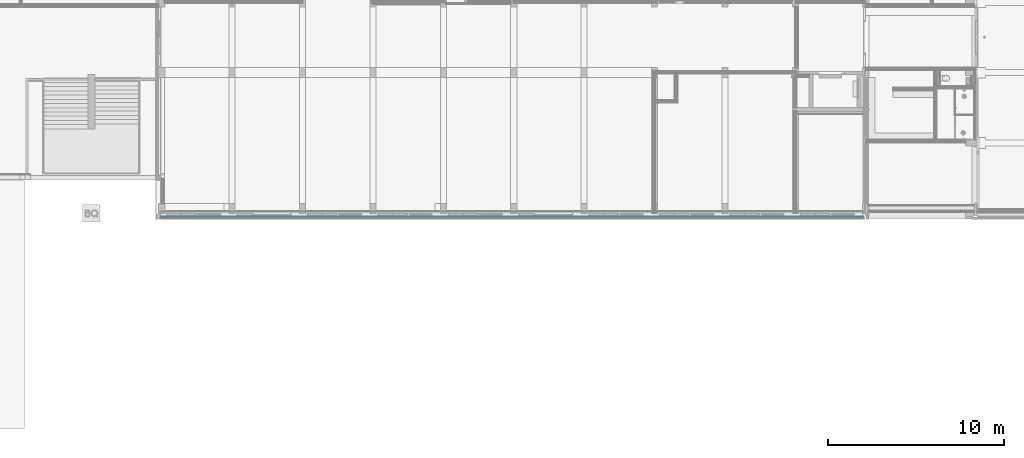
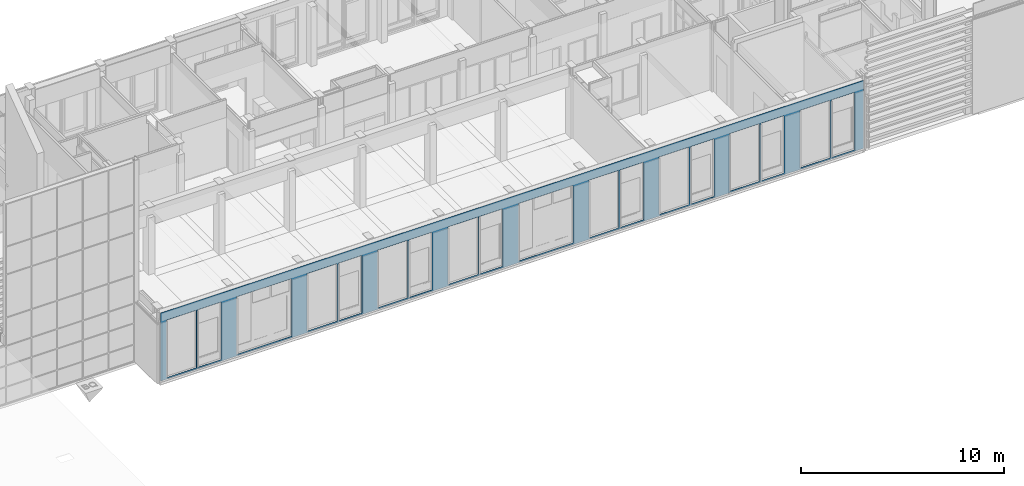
# One storey, part 54 of 109: 1 building element part, 18 openings, 1 element without a shape of its own.
"""IFC2X3 building model written with IfcOpenShell, lengths in millimetres."""

from ifc_helpers import new_model, entity, si_unit, converted_unit, derived_unit, money_unit, direction, frame, origin_with_axes, place, context, subcontext, project, spatial, faceted_brep, material, type_object, element, aggregate, save


model = new_model("IFC2X3")

# Units and contexts
model_context = context("Model", 3, precision=0.01, world=origin_with_axes(), true_north=direction((0.0, 1.0)))
body_context = subcontext(model_context, "Body", "Model", "MODEL_VIEW")
ifc_project = project(units=[si_unit("LENGTHUNIT", "METRE", prefix="MILLI"), si_unit("AREAUNIT", "SQUARE_METRE"), si_unit("VOLUMEUNIT", "CUBIC_METRE"), converted_unit("PLANEANGLEUNIT", "DEGREE", entity("IfcPlaneAngleMeasure", 0.0174532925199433), si_unit("PLANEANGLEUNIT", "RADIAN"), dimensions=[0, 0, 0, 0, 0, 0, 0]), money_unit("EUR"), converted_unit("TIMEUNIT", "Year", entity("IfcTimeMeasure", 31557600.0), si_unit("TIMEUNIT", "SECOND"), dimensions=[0, 0, 1, 0, 0, 0, 0]), si_unit("MASSUNIT", "GRAM", prefix="KILO"), si_unit("THERMODYNAMICTEMPERATUREUNIT", "DEGREE_CELSIUS"), si_unit("LUMINOUSINTENSITYUNIT", "LUMEN"), si_unit("ENERGYUNIT", "JOULE", prefix="MEGA"), derived_unit("THERMALCONDUCTANCEUNIT", [(si_unit("POWERUNIT", "WATT"), 1), (si_unit("LENGTHUNIT", "METRE"), -1), (si_unit("THERMODYNAMICTEMPERATUREUNIT", "KELVIN"), -1)]), derived_unit("SPECIFICHEATCAPACITYUNIT", [(si_unit("ENERGYUNIT", "JOULE"), 1), (si_unit("MASSUNIT", "GRAM", prefix="KILO"), -1), (si_unit("THERMODYNAMICTEMPERATUREUNIT", "KELVIN"), -1)]), derived_unit("MASSDENSITYUNIT", [(si_unit("MASSUNIT", "GRAM", prefix="KILO"), 1), (si_unit("VOLUMEUNIT", "CUBIC_METRE"), -1)])], contexts=[model_context])

# Site, building, storey
site_placement = place(None, origin_with_axes())
site = spatial("IfcSite", under=ifc_project, at=site_placement, Name="<site naam>", CompositionType="ELEMENT")
building_placement = place(site_placement, origin_with_axes())
building = spatial("IfcBuilding", under=site, at=building_placement, Name="<Naam gebouw>", CompositionType="ELEMENT")
storey_placement = place(building_placement, origin_with_axes())
storey = spatial("IfcBuildingStorey", under=building, at=storey_placement, Name="00 Begane grond", CompositionType="ELEMENT", Elevation=0.0)

# Wall, openings, building element part
wall_type = type_object("IfcWallType", Name="HSB_285 gevelbeplating 420", PredefinedType="NOTDEFINED")
wall_placement = place(storey_placement, frame((51865.00000000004, -297.9999999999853, 0.0), z_axis=(0.0, 0.0, 1.0), x_axis=(-1.0, 0.0, 0.0)))
wall = element("IfcWall", 1, at=wall_placement, inside=storey, type_object=wall_type, Name="21_Binnenwand_HSB_285")
opening_1_placement = place(wall_placement, frame((37163.99999999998, 0.0, 100.0), z_axis=(0.0, 0.0, 1.0), x_axis=(1.0, 0.0, 0.0)))
element("IfcOpeningElement", 2, at=opening_1_placement, cuts=wall, Name="21_BU-A-01b_305", context=body_context, shape_type="Brep", body=[
    faceted_brep([(-663.0000000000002, -212.9999999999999, 0.0), (-663.0000000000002, -212.9999999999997, 3450.0), (-663.0000000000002, 1.000000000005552, 3450.0), (-663.0000000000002, 1.00000000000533, 0.0), (-663.0000000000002, -421.0000000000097, 0.0), (-663.0000000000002, -421.0000000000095, 3450.0), (663.0000000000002, -212.9999999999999, 3450.0), (663.0000000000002, 1.000000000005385, 3450.0), (663.0000000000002, 1.000000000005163, 0.0), (663.0000000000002, -213.0000000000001, 0.0), (663.0000000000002, -421.0000000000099, 0.0), (663.0000000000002, -421.0000000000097, 3450.0)], [[[0, 1, 2, 3]], [[1, 0, 4, 5]], [[1, 6, 7, 2]], [[7, 8, 3, 2]], [[9, 0, 3, 8]], [[0, 9, 10, 4]], [[5, 4, 10, 11]], [[6, 1, 5, 11]], [[6, 9, 8, 7]], [[9, 6, 11, 10]]]),
])
opening_2_placement = place(wall_placement, frame((38753.9999887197, 0.0, 100.0), z_axis=(0.0, 0.0, 1.0), x_axis=(1.0, 0.0, 0.0)))
element("IfcOpeningElement", 3, at=opening_2_placement, cuts=wall, Name="21_BU-A-01a_305", context=body_context, shape_type="Brep", body=[
    faceted_brep([(-850.9999999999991, -212.9999999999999, 0.0), (-850.9999999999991, -212.9999999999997, 3450.0), (-850.9999999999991, 1.000000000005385, 3450.0), (-850.9999999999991, 1.000000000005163, 0.0), (-850.9999999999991, -421.0000000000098, 0.0), (-850.9999999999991, -421.0000000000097, 3450.0), (850.9999999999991, -212.9999999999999, 3450.0), (851.0000000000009, 1.000000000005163, 3450.0), (851.0000000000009, 1.000000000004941, 0.0), (850.9999999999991, -213.0000000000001, 0.0), (850.9999999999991, -421.00000000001, 0.0), (850.9999999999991, -421.0000000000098, 3450.0)], [[[0, 1, 2, 3]], [[1, 0, 4, 5]], [[1, 6, 7, 2]], [[7, 8, 3, 2]], [[9, 0, 3, 8]], [[0, 9, 10, 4]], [[5, 4, 10, 11]], [[6, 1, 5, 11]], [[6, 9, 8, 7]], [[9, 6, 11, 10]]]),
])
opening_3_placement = place(wall_placement, frame((29164.04998845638, 0.0, 100.0), z_axis=(0.0, 0.0, 1.0), x_axis=(1.0, 0.0, 0.0)))
element("IfcOpeningElement", 4, at=opening_3_placement, cuts=wall, Name="21_BU-A-01b_305", context=body_context, shape_type="Brep", body=[
    faceted_brep([(-663.0000000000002, -212.9999999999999, 0.0), (-663.0000000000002, -212.9999999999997, 3450.0), (-663.0000000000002, 1.000000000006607, 3450.0), (-663.0000000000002, 1.000000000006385, 0.0), (-663.0000000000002, -421.0000000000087, 0.0), (-663.0000000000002, -421.0000000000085, 3450.0), (663.0000000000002, -212.9999999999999, 3450.0), (663.0000000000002, 1.000000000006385, 3450.0), (663.0000000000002, 1.000000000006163, 0.0), (663.0000000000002, -213.0000000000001, 0.0), (663.0000000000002, -421.0000000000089, 0.0), (663.0000000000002, -421.0000000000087, 3450.0)], [[[0, 1, 2, 3]], [[1, 0, 4, 5]], [[1, 6, 7, 2]], [[7, 8, 3, 2]], [[9, 0, 3, 8]], [[0, 9, 10, 4]], [[5, 4, 10, 11]], [[6, 1, 5, 11]], [[6, 9, 8, 7]], [[9, 6, 11, 10]]]),
])
opening_4_placement = place(wall_placement, frame((26754.00000000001, 0.0, 100.0), z_axis=(0.0, 0.0, 1.0), x_axis=(1.0, 0.0, 0.0)))
element("IfcOpeningElement", 5, at=opening_4_placement, cuts=wall, Name="21_BU-A-01a_305", context=body_context, shape_type="Brep", body=[
    faceted_brep([(-850.9999999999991, -212.9999999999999, 0.0), (-850.9999999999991, -212.9999999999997, 3450.0), (-850.9999999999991, 1.000000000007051, 3450.0), (-850.9999999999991, 1.000000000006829, 0.0), (-850.9999999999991, -421.0000000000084, 0.0), (-850.9999999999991, -421.0000000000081, 3450.0), (850.9999999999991, -212.9999999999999, 3450.0), (850.9999999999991, 1.000000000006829, 3450.0), (850.9999999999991, 1.000000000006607, 0.0), (850.9999999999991, -213.0000000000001, 0.0), (850.9999999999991, -421.0000000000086, 0.0), (850.9999999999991, -421.0000000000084, 3450.0)], [[[0, 1, 2, 3]], [[1, 0, 4, 5]], [[1, 6, 7, 2]], [[7, 8, 3, 2]], [[9, 0, 3, 8]], [[0, 9, 10, 4]], [[5, 4, 10, 11]], [[6, 1, 5, 11]], [[6, 9, 8, 7]], [[9, 6, 11, 10]]]),
])
opening_5_placement = place(wall_placement, frame((25163.98053643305, 0.0, 100.0), z_axis=(0.0, 0.0, 1.0), x_axis=(1.0, 0.0, 0.0)))
element("IfcOpeningElement", 6, at=opening_5_placement, cuts=wall, Name="21_BU-A-01b_305", context=body_context, shape_type="Brep", body=[
    faceted_brep([(-663.0000000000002, -212.9999999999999, 0.0), (-663.0000000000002, -212.9999999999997, 3450.0), (-663.0000000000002, 1.000000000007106, 3450.0), (-663.0000000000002, 1.000000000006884, 0.0), (-663.0000000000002, -421.0000000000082, 0.0), (-663.0000000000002, -421.000000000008, 3450.0), (663.0000000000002, -212.9999999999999, 3450.0), (663.0000000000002, 1.00000000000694, 3450.0), (663.0000000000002, 1.000000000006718, 0.0), (663.0000000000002, -213.0000000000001, 0.0), (663.0000000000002, -421.0000000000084, 0.0), (663.0000000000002, -421.0000000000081, 3450.0)], [[[0, 1, 2, 3]], [[1, 0, 4, 5]], [[1, 6, 7, 2]], [[7, 8, 3, 2]], [[9, 0, 3, 8]], [[0, 9, 10, 4]], [[5, 4, 10, 11]], [[6, 1, 5, 11]], [[6, 9, 8, 7]], [[9, 6, 11, 10]]]),
])
opening_6_placement = place(wall_placement, frame((13164.00001128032, 0.0, 100.0), z_axis=(0.0, 0.0, 1.0), x_axis=(1.0, 0.0, 0.0)))
element("IfcOpeningElement", 7, at=opening_6_placement, cuts=wall, Name="21_BU-A-01b_305", context=body_context, shape_type="Brep", body=[
    faceted_brep([(-662.9999999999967, -212.9999999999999, 0.0), (-662.9999999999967, -212.9999999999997, 3450.0), (-662.9999999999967, 1.000000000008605, 3450.0), (-662.9999999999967, 1.000000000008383, 0.0), (-662.9999999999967, -421.0000000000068, 0.0), (-662.9999999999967, -421.0000000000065, 3450.0), (662.9999999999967, -212.9999999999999, 3450.0), (662.9999999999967, 1.000000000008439, 3450.0), (662.9999999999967, 1.000000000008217, 0.0), (662.9999999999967, -213.0000000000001, 0.0), (662.9999999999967, -421.0000000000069, 0.0), (662.9999999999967, -421.0000000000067, 3450.0)], [[[0, 1, 2, 3]], [[1, 0, 4, 5]], [[1, 6, 7, 2]], [[7, 8, 3, 2]], [[9, 0, 3, 8]], [[0, 9, 10, 4]], [[5, 4, 10, 11]], [[6, 1, 5, 11]], [[6, 9, 8, 7]], [[9, 6, 11, 10]]]),
])
opening_7_placement = place(wall_placement, frame((21164.00000000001, 0.0, 100.0), z_axis=(0.0, 0.0, 1.0), x_axis=(1.0, 0.0, 0.0)))
element("IfcOpeningElement", 8, at=opening_7_placement, cuts=wall, Name="21_BU-A-01b_305", context=body_context, shape_type="Brep", body=[
    faceted_brep([(-663.0000000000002, -212.9999999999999, 0.0), (-663.0000000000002, -212.9999999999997, 3450.0), (-663.0000000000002, 1.000000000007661, 3450.0), (-663.0000000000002, 1.000000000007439, 0.0), (-663.0000000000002, -421.0000000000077, 0.0), (-663.0000000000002, -421.0000000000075, 3450.0), (663.0000000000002, -212.9999999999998, 3450.0), (663.0000000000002, 1.000000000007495, 3450.0), (663.0000000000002, 1.000000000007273, 0.0), (663.0000000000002, -213.0000000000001, 0.0), (663.0000000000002, -421.0000000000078, 0.0), (663.0000000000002, -421.0000000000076, 3450.0)], [[[0, 1, 2, 3]], [[1, 0, 4, 5]], [[1, 6, 7, 2]], [[7, 8, 3, 2]], [[9, 0, 3, 8]], [[0, 9, 10, 4]], [[5, 4, 10, 11]], [[6, 1, 5, 11]], [[6, 9, 8, 7]], [[9, 6, 11, 10]]]),
])
opening_8_placement = place(wall_placement, frame((22753.98053643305, 0.0, 100.0), z_axis=(0.0, 0.0, 1.0), x_axis=(1.0, 0.0, 0.0)))
element("IfcOpeningElement", 9, at=opening_8_placement, cuts=wall, Name="21_BU-A-01a_305", context=body_context, shape_type="Brep", body=[
    faceted_brep([(-850.9999999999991, -212.9999999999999, 0.0), (-850.9999999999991, -212.9999999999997, 3450.0), (-850.9999999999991, 1.000000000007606, 3450.0), (-850.9999999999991, 1.000000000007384, 0.0), (-850.9999999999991, -421.0000000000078, 0.0), (-850.9999999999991, -421.0000000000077, 3450.0), (850.9999999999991, -212.9999999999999, 3450.0), (850.9999999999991, 1.000000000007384, 3450.0), (850.9999999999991, 1.000000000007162, 0.0), (850.9999999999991, -213.0000000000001, 0.0), (850.9999999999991, -421.0000000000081, 0.0), (850.9999999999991, -421.0000000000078, 3450.0)], [[[0, 1, 2, 3]], [[1, 0, 4, 5]], [[1, 6, 7, 2]], [[7, 8, 3, 2]], [[9, 0, 3, 8]], [[0, 9, 10, 4]], [[5, 4, 10, 11]], [[6, 1, 5, 11]], [[6, 9, 8, 7]], [[9, 6, 11, 10]]]),
])
opening_9_placement = place(wall_placement, frame((14754.00000000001, 0.0, 100.0), z_axis=(0.0, 0.0, 1.0), x_axis=(1.0, 0.0, 0.0)))
element("IfcOpeningElement", 10, at=opening_9_placement, cuts=wall, Name="21_BU-A-01a_305", context=body_context, shape_type="Brep", body=[
    faceted_brep([(-850.9999999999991, -212.9999999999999, 0.0), (-850.9999999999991, -212.9999999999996, 3450.0), (-850.9999999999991, 1.000000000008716, 3450.0), (-850.9999999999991, 1.000000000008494, 0.0), (-850.9999999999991, -421.0000000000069, 0.0), (-850.9999999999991, -421.0000000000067, 3450.0), (850.9999999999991, -212.9999999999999, 3450.0), (850.9999999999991, 1.000000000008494, 3450.0), (850.9999999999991, 1.000000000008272, 0.0), (850.9999999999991, -213.0000000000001, 0.0), (850.9999999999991, -421.000000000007, 0.0), (850.9999999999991, -421.0000000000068, 3450.0)], [[[0, 1, 2, 3]], [[1, 0, 4, 5]], [[1, 6, 7, 2]], [[7, 8, 3, 2]], [[9, 0, 3, 8]], [[0, 9, 10, 4]], [[5, 4, 10, 11]], [[6, 1, 5, 11]], [[6, 9, 8, 7]], [[9, 6, 11, 10]]]),
])
opening_10_placement = place(wall_placement, frame((10754.00000000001, 0.0, 100.0), z_axis=(0.0, 0.0, 1.0), x_axis=(1.0, 0.0, 0.0)))
element("IfcOpeningElement", 11, at=opening_10_placement, cuts=wall, Name="21_BU-A-01a_305", context=body_context, shape_type="Brep", body=[
    faceted_brep([(-850.9999999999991, -212.9999999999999, 0.0), (-850.9999999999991, -212.9999999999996, 3450.0), (-850.9999999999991, 1.000000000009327, 3450.0), (-850.9999999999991, 1.000000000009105, 0.0), (-850.9999999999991, -421.0000000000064, 0.0), (-850.9999999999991, -421.0000000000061, 3450.0), (850.9999999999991, -212.9999999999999, 3450.0), (850.9999999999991, 1.000000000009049, 3450.0), (850.9999999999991, 1.000000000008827, 0.0), (850.9999999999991, -213.0000000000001, 0.0), (850.9999999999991, -421.0000000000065, 0.0), (850.9999999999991, -421.0000000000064, 3450.0)], [[[0, 1, 2, 3]], [[1, 0, 4, 5]], [[1, 6, 7, 2]], [[7, 8, 3, 2]], [[9, 0, 3, 8]], [[0, 9, 10, 4]], [[5, 4, 10, 11]], [[6, 1, 5, 11]], [[6, 9, 8, 7]], [[9, 6, 11, 10]]]),
])
opening_11_placement = place(wall_placement, frame((5164.000011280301, 0.0, 100.0), z_axis=(0.0, 0.0, 1.0), x_axis=(1.0, 0.0, 0.0)))
element("IfcOpeningElement", 12, at=opening_11_placement, cuts=wall, Name="21_BU-A-01b_305", context=body_context, shape_type="Brep", body=[
    faceted_brep([(-662.9999999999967, -212.9999999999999, 0.0), (-662.9999999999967, -212.9999999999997, 3450.0), (-662.9999999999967, 1.00000000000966, 3450.0), (-662.9999999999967, 1.000000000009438, 0.0), (-662.9999999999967, -421.0000000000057, 0.0), (-662.9999999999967, -421.0000000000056, 3450.0), (662.9999999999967, -212.9999999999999, 3450.0), (662.9999999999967, 1.000000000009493, 3450.0), (662.9999999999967, 1.000000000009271, 0.0), (662.9999999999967, -213.0000000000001, 0.0), (662.9999999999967, -421.0000000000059, 0.0), (662.9999999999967, -421.0000000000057, 3450.0)], [[[0, 1, 2, 3]], [[1, 0, 4, 5]], [[1, 6, 7, 2]], [[7, 8, 3, 2]], [[9, 0, 3, 8]], [[0, 9, 10, 4]], [[5, 4, 10, 11]], [[6, 1, 5, 11]], [[6, 9, 8, 7]], [[9, 6, 11, 10]]]),
])
opening_12_placement = place(wall_placement, frame((6754.000000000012, 0.0, 100.0), z_axis=(0.0, 0.0, 1.0), x_axis=(1.0, 0.0, 0.0)))
element("IfcOpeningElement", 13, at=opening_12_placement, cuts=wall, Name="21_BU-A-01a_305", context=body_context, shape_type="Brep", body=[
    faceted_brep([(-850.9999999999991, -212.9999999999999, 0.0), (-850.9999999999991, -212.9999999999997, 3450.0), (-850.9999999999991, 1.000000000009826, 3450.0), (-850.9999999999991, 1.000000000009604, 0.0), (-850.9999999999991, -421.0000000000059, 0.0), (-850.9999999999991, -421.0000000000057, 3450.0), (850.9999999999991, -212.9999999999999, 3450.0), (850.9999999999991, 1.000000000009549, 3450.0), (850.9999999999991, 1.000000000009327, 0.0), (850.9999999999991, -213.0000000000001, 0.0), (850.9999999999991, -421.0000000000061, 0.0), (850.9999999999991, -421.0000000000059, 3450.0)], [[[0, 1, 2, 3]], [[1, 0, 4, 5]], [[1, 6, 7, 2]], [[7, 8, 3, 2]], [[9, 0, 3, 8]], [[0, 9, 10, 4]], [[5, 4, 10, 11]], [[6, 1, 5, 11]], [[6, 9, 8, 7]], [[9, 6, 11, 10]]]),
])
opening_13_placement = place(wall_placement, frame((1164.000011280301, 0.0, 100.0), z_axis=(0.0, 0.0, 1.0), x_axis=(1.0, 0.0, 0.0)))
element("IfcOpeningElement", 14, at=opening_13_placement, cuts=wall, Name="21_BU-A-01b_305", context=body_context, shape_type="Brep", body=[
    faceted_brep([(-662.9999999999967, -212.9999999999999, 0.0), (-662.9999999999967, -212.9999999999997, 3450.0), (-662.9999999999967, 1.000000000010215, 3450.0), (-662.9999999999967, 1.000000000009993, 0.0), (-662.9999999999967, -421.0000000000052, 0.0), (-662.9999999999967, -421.000000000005, 3450.0), (662.9999999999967, -212.9999999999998, 3450.0), (662.9999999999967, 1.000000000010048, 3450.0), (662.9999999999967, 1.000000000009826, 0.0), (662.9999999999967, -213.0, 0.0), (662.9999999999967, -421.0000000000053, 0.0), (662.9999999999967, -421.0000000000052, 3450.0)], [[[0, 1, 2, 3]], [[1, 0, 4, 5]], [[1, 6, 7, 2]], [[7, 8, 3, 2]], [[9, 0, 3, 8]], [[0, 9, 10, 4]], [[5, 4, 10, 11]], [[6, 1, 5, 11]], [[6, 9, 8, 7]], [[9, 6, 11, 10]]]),
])
opening_14_placement = place(wall_placement, frame((2754.000000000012, 0.0, 100.0), z_axis=(0.0, 0.0, 1.0), x_axis=(1.0, 0.0, 0.0)))
element("IfcOpeningElement", 15, at=opening_14_placement, cuts=wall, Name="21_BU-A-01a_305", context=body_context, shape_type="Brep", body=[
    faceted_brep([(-850.9999999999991, -212.9999999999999, 0.0), (-850.9999999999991, -212.9999999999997, 3450.0), (-850.9999999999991, 1.000000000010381, 3450.0), (-850.9999999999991, 1.000000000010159, 0.0), (-850.9999999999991, -421.0000000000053, 0.0), (-850.9999999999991, -421.0000000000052, 3450.0), (850.9999999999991, -212.9999999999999, 3450.0), (850.9999999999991, 1.000000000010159, 3450.0), (850.9999999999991, 1.000000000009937, 0.0), (850.9999999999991, -213.0000000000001, 0.0), (850.9999999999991, -421.0000000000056, 0.0), (850.9999999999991, -421.0000000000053, 3450.0)], [[[0, 1, 2, 3]], [[1, 0, 4, 5]], [[1, 6, 7, 2]], [[7, 8, 3, 2]], [[9, 0, 3, 8]], [[0, 9, 10, 4]], [[5, 4, 10, 11]], [[6, 1, 5, 11]], [[6, 9, 8, 7]], [[9, 6, 11, 10]]]),
])
opening_15_placement = place(wall_placement, frame((9164.000011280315, 0.0, 100.0), z_axis=(0.0, 0.0, 1.0), x_axis=(1.0, 0.0, 0.0)))
element("IfcOpeningElement", 16, at=opening_15_placement, cuts=wall, Name="21_BU-A-01b_305", context=body_context, shape_type="Brep", body=[
    faceted_brep([(-662.9999999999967, -212.9999999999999, 0.0), (-662.9999999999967, -212.9999999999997, 3450.0), (-662.9999999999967, 1.000000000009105, 3450.0), (-662.9999999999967, 1.000000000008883, 0.0), (-662.9999999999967, -421.0000000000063, 0.0), (-662.9999999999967, -421.000000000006, 3450.0), (662.9999999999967, -212.9999999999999, 3450.0), (662.9999999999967, 1.000000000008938, 3450.0), (662.9999999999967, 1.000000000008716, 0.0), (662.9999999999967, -213.0000000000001, 0.0), (662.9999999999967, -421.0000000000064, 0.0), (662.9999999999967, -421.0000000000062, 3450.0)], [[[0, 1, 2, 3]], [[1, 0, 4, 5]], [[1, 6, 7, 2]], [[7, 8, 3, 2]], [[9, 0, 3, 8]], [[0, 9, 10, 4]], [[5, 4, 10, 11]], [[6, 1, 5, 11]], [[6, 9, 8, 7]], [[9, 6, 11, 10]]]),
])
opening_16_placement = place(wall_placement, frame((34053.00007085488, 0.0, 103.0000398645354), z_axis=(0.0, 0.0, 1.0), x_axis=(1.0, 0.0, 0.0)))
element("IfcOpeningElement", 17, at=opening_16_placement, cuts=wall, Name="21_BU-C-01_305", context=body_context, shape_type="Brep", body=[
    faceted_brep([(-1551.999929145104, -205.0, 0.0), (-1551.999929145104, -204.9999999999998, 3451.998648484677), (-1551.999929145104, 1.000000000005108, 3451.998648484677), (-1551.999929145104, 1.000000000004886, 0.0), (-1551.999929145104, -421.0000000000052, 0.0), (-1551.999929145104, -421.000000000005, 3451.998648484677), (1551.999929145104, -204.9999999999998, 3451.998648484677), (1551.999929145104, 1.000000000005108, 3451.998648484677), (1551.999929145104, 1.000000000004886, 0.0), (1551.999929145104, -205.0, 0.0), (1551.999929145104, -421.0000000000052, 0.0), (1551.999929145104, -421.0000000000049, 3451.998648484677)], [[[0, 1, 2, 3]], [[1, 0, 4, 5]], [[1, 6, 7, 2]], [[7, 8, 3, 2]], [[9, 0, 3, 8]], [[0, 9, 10, 4]], [[5, 4, 10, 11]], [[6, 1, 5, 11]], [[6, 9, 8, 7]], [[9, 6, 11, 10]]]),
])
opening_17_placement = place(wall_placement, frame((18053.00484185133, 0.0, 103.0000398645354), z_axis=(0.0, 0.0, 1.0), x_axis=(1.0, 0.0, 0.0)))
element("IfcOpeningElement", 18, at=opening_17_placement, cuts=wall, Name="21_BU-C-01_305", context=body_context, shape_type="Brep", body=[
    faceted_brep([(-1551.999929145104, -205.0, 0.0), (-1551.999929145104, -204.9999999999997, 3451.998648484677), (-1551.999929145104, 1.000000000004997, 3451.998648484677), (-1551.999929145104, 1.00000000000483, 0.0), (-1551.999929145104, -421.0000000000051, 0.0), (-1551.999929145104, -421.0000000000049, 3451.998648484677), (1551.999929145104, -204.9999999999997, 3451.998648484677), (1551.999929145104, 1.000000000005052, 3451.998648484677), (1551.999929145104, 1.00000000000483, 0.0), (1551.999929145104, -205.0, 0.0), (1551.999929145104, -421.0000000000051, 0.0), (1551.999929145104, -421.0000000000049, 3451.998648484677)], [[[0, 1, 2, 3]], [[1, 0, 4, 5]], [[1, 6, 7, 2]], [[7, 8, 3, 2]], [[9, 0, 3, 8]], [[0, 9, 10, 4]], [[5, 4, 10, 11]], [[6, 1, 5, 11]], [[6, 9, 8, 7]], [[9, 6, 11, 10]]]),
])
opening_18_placement = place(wall_placement, frame((30754.04506446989, 0.0, 100.0), z_axis=(0.0, 0.0, 1.0), x_axis=(1.0, 0.0, 0.0)))
element("IfcOpeningElement", 19, at=opening_18_placement, cuts=wall, Name="21_BU-A-01a_305", context=body_context, shape_type="Brep", body=[
    faceted_brep([(-850.9999999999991, -212.9999999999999, 0.0), (-850.9999999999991, -212.9999999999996, 3450.0), (-850.9999999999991, 1.000000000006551, 3450.0), (-850.9999999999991, 1.000000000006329, 0.0), (-850.9999999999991, -421.0000000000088, 0.0), (-850.9999999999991, -421.0000000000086, 3450.0), (850.9999999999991, -212.9999999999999, 3450.0), (850.9999999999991, 1.000000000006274, 3450.0), (850.9999999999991, 1.000000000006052, 0.0), (850.9999999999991, -213.0000000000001, 0.0), (850.9999999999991, -421.000000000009, 0.0), (850.9999999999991, -421.0000000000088, 3450.0)], [[[0, 1, 2, 3]], [[1, 0, 4, 5]], [[1, 6, 7, 2]], [[7, 8, 3, 2]], [[9, 0, 3, 8]], [[0, 9, 10, 4]], [[5, 4, 10, 11]], [[6, 1, 5, 11]], [[6, 9, 8, 7]], [[9, 6, 11, 10]]]),
])
ifc_material = material(Name="brandwerende_bekleding")
building_element_part_placement = place(wall_placement, origin_with_axes())
building_element_part = element("IfcBuildingElementPart", 20, at=building_element_part_placement, material=ifc_material, Name="brandwerende_bekleding", context=body_context, shape_type="Brep", body=[
    faceted_brep([(589.0010753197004, -106.9999999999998, 3555.0), (590.001075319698, -106.9999999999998, 3555.0), (590.001075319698, -107.0, 0.0), (3710.000004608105, -106.9999999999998, 0.0), (3710.000004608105, -106.9999999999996, 3555.0), (3711.000004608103, -106.9999999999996, 3555.0), (3711.000004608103, -106.9999999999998, 0.0), (4589.0010753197, -106.9999999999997, 0.0), (4589.0010753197, -106.9999999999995, 3555.0), (4590.001075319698, -106.9999999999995, 3555.0), (4590.001075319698, -106.9999999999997, 0.0), (7710.000004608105, -106.9999999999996, 0.0), (7710.000004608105, -106.9999999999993, 3555.0), (7711.000004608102, -106.9999999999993, 3555.0), (7711.000004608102, -106.9999999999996, 0.0), (8589.0010753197, -106.9999999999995, 0.0), (8589.0010753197, -106.9999999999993, 3555.0), (8590.001075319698, -106.9999999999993, 3555.0), (8590.001075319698, -106.9999999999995, 0.0), (11710.00000460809, -106.9999999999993, 0.0), (11710.00000460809, -106.9999999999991, 3555.0), (11711.00000460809, -106.9999999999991, 3555.0), (11711.00000460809, -106.9999999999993, 0.0), (12589.00107531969, -106.9999999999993, 0.0), (12589.00107531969, -106.999999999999, 3555.0), (12590.00107531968, -106.999999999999, 3555.0), (12590.00107531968, -106.9999999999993, 0.0), (15710.00000460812, -106.9999999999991, 0.0), (15710.00000460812, -106.9999999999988, 3555.0), (15711.00000460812, -106.9999999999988, 3555.0), (15711.00000460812, -106.9999999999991, 0.0), (16589.00107531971, -106.999999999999, 0.0), (16589.00107531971, -106.9999999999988, 3555.0), (16590.00107531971, -106.9999999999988, 3555.0), (16590.00107531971, -106.999999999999, 0.0), (19710.0000046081, -106.9999999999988, 0.0), (19710.0000046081, -106.9999999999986, 3555.0), (19711.0000046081, -106.9999999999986, 3555.0), (19711.0000046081, -106.9999999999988, 0.0), (20589.0010753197, -106.9999999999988, 0.0), (20589.0010753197, -106.9999999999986, 3555.0), (20590.0010753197, -106.9999999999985, 3555.0), (20590.0010753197, -106.9999999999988, 0.0), (23709.98054104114, -106.9999999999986, 0.0), (23709.98054104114, -106.9999999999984, 3555.0), (23710.98054104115, -106.9999999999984, 3555.0), (23710.98054104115, -106.9999999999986, 0.0), (24588.98161175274, -106.9999999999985, 0.0), (24588.98161175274, -106.9999999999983, 3555.0), (24589.98161175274, -106.9999999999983, 3555.0), (24589.98161175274, -106.9999999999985, 0.0), (27710.0000046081, -106.9999999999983, 0.0), (27710.0000046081, -106.9999999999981, 3555.0), (27711.00000460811, -106.9999999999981, 3555.0), (27711.00000460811, -106.9999999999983, 0.0), (28589.0010753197, -106.9999999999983, 0.0), (28589.0010753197, -106.9999999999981, 3555.0), (28590.0010753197, -106.9999999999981, 3555.0), (28590.0010753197, -106.9999999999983, 0.0), (31710.0000046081, -106.9999999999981, 0.0), (31710.0000046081, -106.9999999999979, 3555.0), (31711.0000046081, -106.9999999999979, 3555.0), (31711.0000046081, -106.9999999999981, 0.0), (32589.00107531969, -106.999999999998, 0.0), (32589.00107531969, -106.9999999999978, 3555.0), (32590.00107531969, -106.9999999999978, 3555.0), (32590.00107531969, -106.999999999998, 0.0), (35710.00000460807, -106.9999999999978, 0.0), (35710.00000460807, -106.9999999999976, 3555.0), (35711.00000460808, -106.9999999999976, 3555.0), (35711.00000460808, -106.9999999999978, 0.0), (36589.00107531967, -106.9999999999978, 0.0), (36589.00107531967, -106.9999999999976, 3555.0), (36590.00107531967, -106.9999999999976, 3555.0), (36590.00107531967, -106.9999999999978, 0.0), (39930.00004797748, -106.9999999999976, 0.0), (39930.00004797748, -106.9999999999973, 4100.000039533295), (0.0, -106.9999999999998, 4100.000039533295), (0.0, -107.0, 0.0), (589.0010753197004, -107.0, 0.0), (590.001075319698, -102.4999999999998, 3555.0), (589.0010753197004, -102.4999999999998, 3555.0), (590.001075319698, -102.5, 0.0), (3710.000004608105, -102.4999999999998, 0.0), (3710.000004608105, -102.4999999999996, 3555.0), (3711.000004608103, -102.4999999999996, 3555.0), (3711.000004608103, -102.4999999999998, 0.0), (4589.0010753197, -102.4999999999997, 0.0), (4589.0010753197, -102.4999999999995, 3555.0), (4590.001075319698, -102.4999999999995, 3555.0), (4590.001075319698, -102.4999999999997, 0.0), (7710.000004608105, -102.4999999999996, 0.0), (7710.000004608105, -102.4999999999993, 3555.0), (7711.000004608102, -102.4999999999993, 3555.0), (7711.000004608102, -102.4999999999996, 0.0), (8589.0010753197, -102.4999999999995, 0.0), (8589.0010753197, -102.4999999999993, 3555.0), (8590.001075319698, -102.4999999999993, 3555.0), (8590.001075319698, -102.4999999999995, 0.0), (11710.00000460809, -102.4999999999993, 0.0), (11710.00000460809, -102.4999999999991, 3555.0), (11711.00000460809, -102.4999999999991, 3555.0), (11711.00000460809, -102.4999999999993, 0.0), (12589.00107531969, -102.4999999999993, 0.0), (12589.00107531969, -102.499999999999, 3555.0), (12590.00107531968, -102.499999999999, 3555.0), (12590.00107531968, -102.4999999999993, 0.0), (15710.00000460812, -102.4999999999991, 0.0), (15710.00000460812, -102.4999999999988, 3555.0), (15711.00000460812, -102.4999999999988, 3555.0), (15711.00000460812, -102.4999999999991, 0.0), (16589.00107531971, -102.499999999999, 0.0), (16589.00107531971, -102.4999999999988, 3555.0), (16590.00107531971, -102.4999999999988, 3555.0), (16590.00107531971, -102.499999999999, 0.0), (19710.0000046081, -102.4999999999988, 0.0), (19710.0000046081, -102.4999999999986, 3555.0), (19711.0000046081, -102.4999999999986, 3555.0), (19711.0000046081, -102.4999999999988, 0.0), (20589.0010753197, -102.4999999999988, 0.0), (20589.0010753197, -102.4999999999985, 3555.0), (20590.0010753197, -102.4999999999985, 3555.0), (20590.0010753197, -102.4999999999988, 0.0), (23709.98054104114, -102.4999999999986, 0.0), (23709.98054104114, -102.4999999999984, 3555.0), (23710.98054104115, -102.4999999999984, 3555.0), (23710.98054104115, -102.4999999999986, 0.0), (24588.98161175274, -102.4999999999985, 0.0), (24588.98161175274, -102.4999999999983, 3555.0), (24589.98161175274, -102.4999999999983, 3555.0), (24589.98161175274, -102.4999999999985, 0.0), (27710.0000046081, -102.4999999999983, 0.0), (27710.0000046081, -102.4999999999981, 3555.0), (27711.00000460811, -102.4999999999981, 3555.0), (27711.00000460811, -102.4999999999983, 0.0), (28589.0010753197, -102.4999999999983, 0.0), (28589.0010753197, -102.4999999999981, 3555.0), (28590.0010753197, -102.4999999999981, 3555.0), (28590.0010753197, -102.4999999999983, 0.0), (31710.0000046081, -102.4999999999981, 0.0), (31710.0000046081, -102.4999999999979, 3555.0), (31711.0000046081, -102.4999999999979, 3555.0), (31711.0000046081, -102.4999999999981, 0.0), (32589.00107531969, -102.499999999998, 0.0), (32589.00107531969, -102.4999999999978, 3555.0), (32590.00107531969, -102.4999999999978, 3555.0), (32590.00107531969, -102.499999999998, 0.0), (35710.00000460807, -102.4999999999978, 0.0), (35710.00000460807, -102.4999999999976, 3555.0), (35711.00000460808, -102.4999999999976, 3555.0), (35711.00000460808, -102.4999999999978, 0.0), (36589.00107531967, -102.4999999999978, 0.0), (36589.00107531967, -102.4999999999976, 3555.0), (36590.00107531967, -102.4999999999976, 3555.0), (36590.00107531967, -102.4999999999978, 0.0), (39930.00004797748, -102.4999999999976, 0.0), (39930.00004797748, -102.4999999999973, 4100.000039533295), (0.0, -102.4999999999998, 4100.000039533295), (0.0, -102.5, 0.0), (589.0010753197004, -102.5, 0.0)], [[[0, 1, 2, 3, 4, 5, 6, 7, 8, 9, 10, 11, 12, 13, 14, 15, 16, 17, 18, 19, 20, 21, 22, 23, 24, 25, 26, 27, 28, 29, 30, 31, 32, 33, 34, 35, 36, 37, 38, 39, 40, 41, 42, 43, 44, 45, 46, 47, 48, 49, 50, 51, 52, 53, 54, 55, 56, 57, 58, 59, 60, 61, 62, 63, 64, 65, 66, 67, 68, 69, 70, 71, 72, 73, 74, 75, 76, 77, 78, 79]], [[80, 1, 0, 81]], [[82, 2, 1, 80]], [[3, 2, 82, 83]], [[84, 4, 3, 83]], [[85, 5, 4, 84]], [[86, 6, 5, 85]], [[7, 6, 86, 87]], [[88, 8, 7, 87]], [[89, 9, 8, 88]], [[90, 10, 9, 89]], [[90, 91, 11, 10]], [[92, 12, 11, 91]], [[93, 13, 12, 92]], [[94, 14, 13, 93]], [[15, 14, 94, 95]], [[96, 16, 15, 95]], [[97, 17, 16, 96]], [[98, 18, 17, 97]], [[19, 18, 98, 99]], [[100, 20, 19, 99]], [[101, 21, 20, 100]], [[102, 22, 21, 101]], [[23, 22, 102, 103]], [[104, 24, 23, 103]], [[105, 25, 24, 104]], [[106, 26, 25, 105]], [[27, 26, 106, 107]], [[108, 28, 27, 107]], [[109, 29, 28, 108]], [[110, 30, 29, 109]], [[31, 30, 110, 111]], [[112, 32, 31, 111]], [[113, 33, 32, 112]], [[114, 34, 33, 113]], [[35, 34, 114, 115]], [[116, 36, 35, 115]], [[117, 37, 36, 116]], [[118, 38, 37, 117]], [[39, 38, 118, 119]], [[120, 40, 39, 119]], [[121, 41, 40, 120]], [[122, 42, 41, 121]], [[122, 123, 43, 42]], [[124, 44, 43, 123]], [[125, 45, 44, 124]], [[126, 46, 45, 125]], [[47, 46, 126, 127]], [[128, 48, 47, 127]], [[129, 49, 48, 128]], [[130, 50, 49, 129]], [[51, 50, 130, 131]], [[132, 52, 51, 131]], [[133, 53, 52, 132]], [[134, 54, 53, 133]], [[55, 54, 134, 135]], [[136, 56, 55, 135]], [[137, 57, 56, 136]], [[138, 58, 57, 137]], [[138, 139, 59, 58]], [[140, 60, 59, 139]], [[141, 61, 60, 140]], [[142, 62, 61, 141]], [[63, 62, 142, 143]], [[144, 64, 63, 143]], [[145, 65, 64, 144]], [[146, 66, 65, 145]], [[146, 147, 67, 66]], [[148, 68, 67, 147]], [[149, 69, 68, 148]], [[150, 70, 69, 149]], [[71, 70, 150, 151]], [[152, 72, 71, 151]], [[153, 73, 72, 152]], [[154, 74, 73, 153]], [[75, 74, 154, 155]], [[155, 156, 76, 75]], [[157, 77, 76, 156]], [[158, 78, 77, 157]], [[158, 159, 79, 78]], [[81, 0, 79, 159]], [[80, 81, 159, 158, 157, 156, 155, 154, 153, 152, 151, 150, 149, 148, 147, 146, 145, 144, 143, 142, 141, 140, 139, 138, 137, 136, 135, 134, 133, 132, 131, 130, 129, 128, 127, 126, 125, 124, 123, 122, 121, 120, 119, 118, 117, 116, 115, 114, 113, 112, 111, 110, 109, 108, 107, 106, 105, 104, 103, 102, 101, 100, 99, 98, 97, 96, 95, 94, 93, 92, 91, 90, 89, 88, 87, 86, 85, 84, 83, 82]]]),
])
aggregate(wall, [building_element_part])

save(model, "model.ifc")
